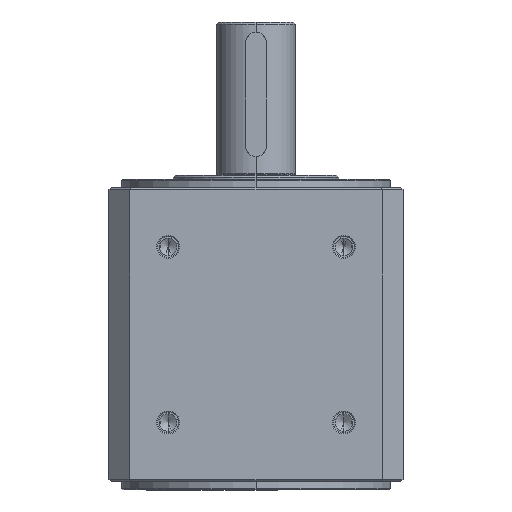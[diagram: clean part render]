
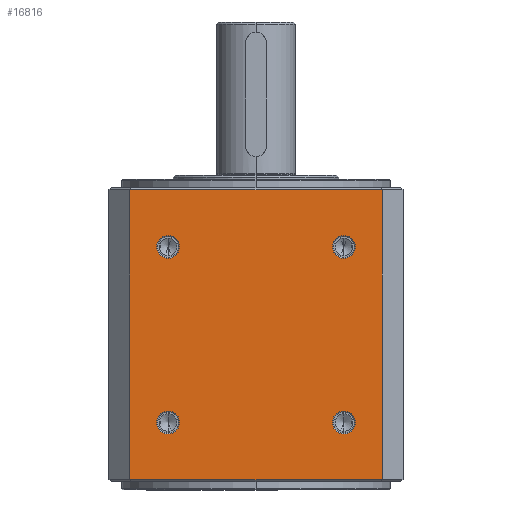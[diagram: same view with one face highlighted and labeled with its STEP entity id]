
A CAD part, left-side view. The second image highlights one B-rep face of the part: STEP entity #16816.
In plain terms, the highlighted planar face has unit normal (-1, 0, 0).
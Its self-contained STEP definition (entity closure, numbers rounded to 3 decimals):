
#16233 = EDGE_CURVE ( 'NONE', #16337, #16353, #28090, .T. ) ;
#16283 = VERTEX_POINT ( 'NONE', #28153 ) ;
#16304 = VERTEX_POINT ( 'NONE', #28191 ) ;
#16314 = EDGE_CURVE ( 'NONE', #16316, #16304, #28222, .T. ) ;
#16316 = VERTEX_POINT ( 'NONE', #28268 ) ;
#16330 = EDGE_CURVE ( 'NONE', #16333, #16332, #28182, .T. ) ;
#16332 = VERTEX_POINT ( 'NONE', #28415 ) ;
#16333 = VERTEX_POINT ( 'NONE', #28437 ) ;
#16337 = VERTEX_POINT ( 'NONE', #28282 ) ;
#16353 = VERTEX_POINT ( 'NONE', #28323 ) ;
#16417 = VERTEX_POINT ( 'NONE', #28250 ) ;
#16420 = EDGE_CURVE ( 'NONE', #16283, #16417, #28491, .T. ) ;
#16677 = ORIENTED_EDGE ( 'NONE', *, *, #16314, .F. ) ;
#16702 = ORIENTED_EDGE ( 'NONE', *, *, #16764, .T. ) ;
#16703 = EDGE_CURVE ( 'NONE', #16765, #16762, #29310, .T. ) ;
#16705 = EDGE_CURVE ( 'NONE', #16762, #16714, #29242, .T. ) ;
#16708 = ORIENTED_EDGE ( 'NONE', *, *, #16705, .T. ) ;
#16710 = ORIENTED_EDGE ( 'NONE', *, *, #16420, .F. ) ;
#16711 = ORIENTED_EDGE ( 'NONE', *, *, #16716, .F. ) ;
#16712 = EDGE_LOOP ( 'NONE', ( #16713, #16677 ) ) ;
#16713 = ORIENTED_EDGE ( 'NONE', *, *, #16757, .F. ) ;
#16714 = VERTEX_POINT ( 'NONE', #29216 ) ;
#16715 = ORIENTED_EDGE ( 'NONE', *, *, #16330, .F. ) ;
#16716 = EDGE_CURVE ( 'NONE', #16417, #16283, #29244, .T. ) ;
#16717 = VERTEX_POINT ( 'NONE', #29243 ) ;
#16719 = EDGE_LOOP ( 'NONE', ( #16711, #16710 ) ) ;
#16753 = EDGE_CURVE ( 'NONE', #16353, #16337, #29280, .T. ) ;
#16754 = EDGE_LOOP ( 'NONE', ( #16766, #16756 ) ) ;
#16755 = EDGE_LOOP ( 'NONE', ( #16763, #16702, #16758, #16708 ) ) ;
#16756 = ORIENTED_EDGE ( 'NONE', *, *, #16233, .F. ) ;
#16757 = EDGE_CURVE ( 'NONE', #16304, #16316, #29072, .T. ) ;
#16758 = ORIENTED_EDGE ( 'NONE', *, *, #16703, .T. ) ;
#16761 = EDGE_CURVE ( 'NONE', #16714, #16717, #29001, .T. ) ;
#16762 = VERTEX_POINT ( 'NONE', #29320 ) ;
#16763 = ORIENTED_EDGE ( 'NONE', *, *, #16761, .T. ) ;
#16764 = EDGE_CURVE ( 'NONE', #16717, #16765, #29359, .T. ) ;
#16765 = VERTEX_POINT ( 'NONE', #29419 ) ;
#16766 = ORIENTED_EDGE ( 'NONE', *, *, #16753, .F. ) ;
#16767 = EDGE_CURVE ( 'NONE', #16332, #16333, #29383, .T. ) ;
#16811 = EDGE_LOOP ( 'NONE', ( #16817, #16715 ) ) ;
#16816 = ADVANCED_FACE ( 'NONE', ( #29481, #29468, #29457, #29464, #29482 ), #29067, .F. ) ;
#16817 = ORIENTED_EDGE ( 'NONE', *, *, #16767, .F. ) ;
#28058 = AXIS2_PLACEMENT_3D ( 'NONE', #28062, #28078, #28077 ) ;
#28062 = CARTESIAN_POINT ( 'NONE',  ( -71., -42.426, 117.426 ) ) ;
#28077 = DIRECTION ( 'NONE',  ( 0., 0., 1. ) ) ;
#28078 = DIRECTION ( 'NONE',  ( -1., 0., 0. ) ) ;
#28090 = CIRCLE ( 'NONE', #28058, 5.5 ) ;
#28094 = CARTESIAN_POINT ( 'NONE',  ( -71., 42.426, 32.574 ) ) ;
#28153 = CARTESIAN_POINT ( 'NONE',  ( -71., -42.426, 27.074 ) ) ;
#28160 = AXIS2_PLACEMENT_3D ( 'NONE', #28094, #28247, #28248 ) ;
#28182 = CIRCLE ( 'NONE', #28160, 5.5 ) ;
#28191 = CARTESIAN_POINT ( 'NONE',  ( -71., 42.426, 122.926 ) ) ;
#28220 = AXIS2_PLACEMENT_3D ( 'NONE', #28266, #28265, #28264 ) ;
#28222 = CIRCLE ( 'NONE', #28220, 5.5 ) ;
#28247 = DIRECTION ( 'NONE',  ( -1., 0., 0. ) ) ;
#28248 = DIRECTION ( 'NONE',  ( 0., 0., 1. ) ) ;
#28250 = CARTESIAN_POINT ( 'NONE',  ( -71., -42.426, 38.074 ) ) ;
#28264 = DIRECTION ( 'NONE',  ( 0., 0., 1. ) ) ;
#28265 = DIRECTION ( 'NONE',  ( -1., 0., 0. ) ) ;
#28266 = CARTESIAN_POINT ( 'NONE',  ( -71., 42.426, 117.426 ) ) ;
#28268 = CARTESIAN_POINT ( 'NONE',  ( -71., 42.426, 111.926 ) ) ;
#28282 = CARTESIAN_POINT ( 'NONE',  ( -71., -42.426, 111.926 ) ) ;
#28323 = CARTESIAN_POINT ( 'NONE',  ( -71., -42.426, 122.926 ) ) ;
#28415 = CARTESIAN_POINT ( 'NONE',  ( -71., 42.426, 38.074 ) ) ;
#28437 = CARTESIAN_POINT ( 'NONE',  ( -71., 42.426, 27.074 ) ) ;
#28466 = AXIS2_PLACEMENT_3D ( 'NONE', #28490, #28489, #28488 ) ;
#28488 = DIRECTION ( 'NONE',  ( 0., 0., 1. ) ) ;
#28489 = DIRECTION ( 'NONE',  ( -1., 0., 0. ) ) ;
#28490 = CARTESIAN_POINT ( 'NONE',  ( -71., -42.426, 32.574 ) ) ;
#28491 = CIRCLE ( 'NONE', #28466, 5.5 ) ;
#29001 = LINE ( 'NONE', #29070, #29084 ) ;
#29067 = PLANE ( 'NONE',  #29265 ) ;
#29070 = CARTESIAN_POINT ( 'NONE',  ( -71., 61., 150. ) ) ;
#29072 = CIRCLE ( 'NONE', #29186, 5.5 ) ;
#29083 = DIRECTION ( 'NONE',  ( 0., 0., -1. ) ) ;
#29084 = VECTOR ( 'NONE', #29083, 1000. ) ;
#29185 = CARTESIAN_POINT ( 'NONE',  ( -71., 42.426, 117.426 ) ) ;
#29186 = AXIS2_PLACEMENT_3D ( 'NONE', #29185, #29191, #29190 ) ;
#29190 = DIRECTION ( 'NONE',  ( 0., 0., 1. ) ) ;
#29191 = DIRECTION ( 'NONE',  ( -1., 0., 0. ) ) ;
#29203 = VECTOR ( 'NONE', #29231, 1000. ) ;
#29216 = CARTESIAN_POINT ( 'NONE',  ( -71., 61., 145. ) ) ;
#29218 = CARTESIAN_POINT ( 'NONE',  ( -71., 71., 150. ) ) ;
#29219 = DIRECTION ( 'NONE',  ( 0., 0., 1. ) ) ;
#29220 = DIRECTION ( 'NONE',  ( -1., 0., 0. ) ) ;
#29221 = CARTESIAN_POINT ( 'NONE',  ( -71., -42.426, 117.426 ) ) ;
#29222 = DIRECTION ( 'NONE',  ( 0., 0., -1. ) ) ;
#29231 = DIRECTION ( 'NONE',  ( 0., 0., 1. ) ) ;
#29236 = CARTESIAN_POINT ( 'NONE',  ( -71., -61., 150. ) ) ;
#29238 = DIRECTION ( 'NONE',  ( -1., 0., 0. ) ) ;
#29239 = DIRECTION ( 'NONE',  ( 0., 1., 0. ) ) ;
#29240 = VECTOR ( 'NONE', #29239, 1000. ) ;
#29241 = CARTESIAN_POINT ( 'NONE',  ( -71., 61., 145. ) ) ;
#29242 = LINE ( 'NONE', #29241, #29240 ) ;
#29243 = CARTESIAN_POINT ( 'NONE',  ( -71., 61., 5. ) ) ;
#29244 = CIRCLE ( 'NONE', #29246, 5.5 ) ;
#29245 = CARTESIAN_POINT ( 'NONE',  ( -71., -42.426, 32.574 ) ) ;
#29246 = AXIS2_PLACEMENT_3D ( 'NONE', #29245, #29238, #29251 ) ;
#29251 = DIRECTION ( 'NONE',  ( 0., 0., 1. ) ) ;
#29265 = AXIS2_PLACEMENT_3D ( 'NONE', #29218, #29279, #29222 ) ;
#29279 = DIRECTION ( 'NONE',  ( 1., 0., 0. ) ) ;
#29280 = CIRCLE ( 'NONE', #29302, 5.5 ) ;
#29302 = AXIS2_PLACEMENT_3D ( 'NONE', #29221, #29220, #29219 ) ;
#29310 = LINE ( 'NONE', #29236, #29203 ) ;
#29311 = CARTESIAN_POINT ( 'NONE',  ( -71., -61., 5. ) ) ;
#29320 = CARTESIAN_POINT ( 'NONE',  ( -71., -61., 145. ) ) ;
#29325 = DIRECTION ( 'NONE',  ( 0., -1., 0. ) ) ;
#29359 = LINE ( 'NONE', #29311, #29384 ) ;
#29383 = CIRCLE ( 'NONE', #29420, 5.5 ) ;
#29384 = VECTOR ( 'NONE', #29325, 1000. ) ;
#29400 = DIRECTION ( 'NONE',  ( 0., 0., 1. ) ) ;
#29401 = DIRECTION ( 'NONE',  ( -1., 0., 0. ) ) ;
#29402 = CARTESIAN_POINT ( 'NONE',  ( -71., 42.426, 32.574 ) ) ;
#29419 = CARTESIAN_POINT ( 'NONE',  ( -71., -61., 5. ) ) ;
#29420 = AXIS2_PLACEMENT_3D ( 'NONE', #29402, #29401, #29400 ) ;
#29457 = FACE_BOUND ( 'NONE', #16754, .T. ) ;
#29464 = FACE_BOUND ( 'NONE', #16712, .T. ) ;
#29468 = FACE_BOUND ( 'NONE', #16719, .T. ) ;
#29481 = FACE_BOUND ( 'NONE', #16811, .T. ) ;
#29482 = FACE_OUTER_BOUND ( 'NONE', #16755, .T. ) ;
